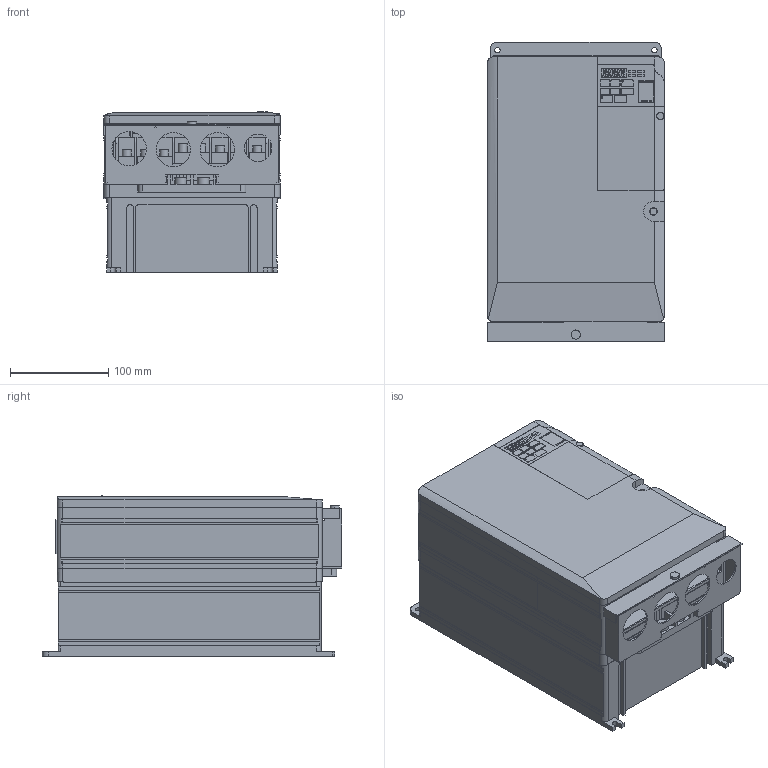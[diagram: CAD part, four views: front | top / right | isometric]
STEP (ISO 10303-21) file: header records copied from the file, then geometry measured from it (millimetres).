
FILE_DESCRIPTION((''),'2;1');
FILE_NAME('V1000_IP20_FRAME_O1_ASM','2010-07-20T',('jc'),('YASKAWA ELECTRIC CORCORATION'),'PRO/ENGINEER BY PARAMETRIC TECHNOLOGY CORPORATION, 2008490','PRO/ENGINEER BY PARAMETRIC TECHNOLOGY CORPORATION, 2008490','');
FILE_SCHEMA(('CONFIG_CONTROL_DESIGN'));
Length unit declared in the file: millimetre
Products named in the file (28): NONE-72370; ASM0111_ASM; NONE-64726; ASM0112_ASM; NONE-72231; ASM0113_ASM; NONE-26453; ASM0114_ASM; NONE-63704; ASM0115_ASM; PRT0001; NONE-29610; BASE_FAN_F1________ANY_ASM; NONE-71316; ASM0116_ASM; NONE-70115; BASE_HEATSINK_F1________ANY_ASM; NONE-29143; ASM0117_ASM; NONE-28636; ASM0118_ASM; NONE-25385; ASM0119_ASM; NONE-25580; ASM0120_ASM; CIMR_VZ4A0038FAA_ANY_ASM; _4A0038F; V1000_IP20_FRAME_O1_ASM
Assembly tree (28 placements, depth 4):
  V1000_IP20_FRAME_O1_ASM
    CIMR_VZ4A0038FAA_ANY_ASM
      ASM0111_ASM
        NONE-72370
      ASM0112_ASM
        NONE-64726
      ASM0113_ASM
        NONE-72231
      ASM0114_ASM
        NONE-26453
      ASM0115_ASM
        NONE-63704
      PRT0001
      BASE_FAN_F1________ANY_ASM  x2
        NONE-29610
      ASM0116_ASM
        NONE-71316
      BASE_HEATSINK_F1________ANY_ASM
        NONE-70115
      ASM0117_ASM
        NONE-29143
      ASM0118_ASM
        NONE-28636
      ASM0119_ASM
        NONE-25385
      ASM0120_ASM
        NONE-25580
    _4A0038F
Bounding box: 180.18 x 305 x 164 mm (x, y, z)
Volume: 4047273.7 mm3; surface area: 775038.7 mm2
Topology: 13 solids, 14 shells, 1947 faces, 5267 edges, 3487 vertices
Faces by surface type: plane 1535, cylinder 412
Entity records: 60922 total; most frequent: CARTESIAN_POINT 10753, ORIENTED_EDGE 10376, DIRECTION 10088, EDGE_CURVE 5196, VECTOR 4280, LINE 4280, VERTEX_POINT 3439, AXIS2_PLACEMENT_3D 2904
